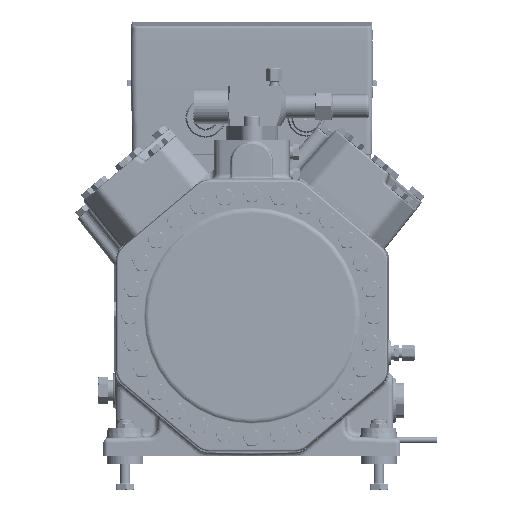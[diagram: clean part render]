
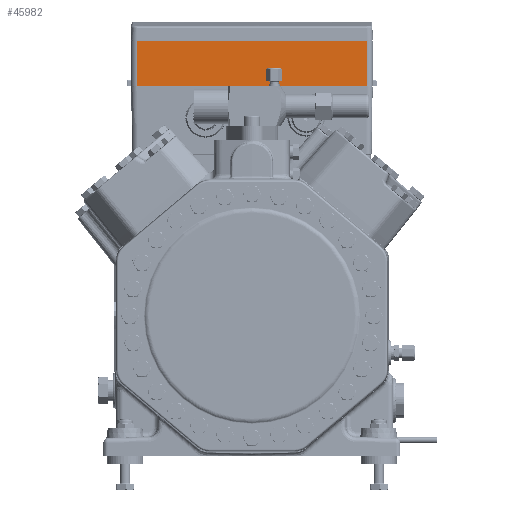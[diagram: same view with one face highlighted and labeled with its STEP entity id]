
A CAD part, front view. The second image highlights one B-rep face of the part: STEP entity #45982.
In plain terms, the highlighted planar face has unit normal (0, -1, 0).
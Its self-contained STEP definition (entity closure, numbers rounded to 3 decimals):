
#12844=PLANE('',#164041);
#18606=LINE('',#291301,#25681);
#18607=LINE('',#291304,#25682);
#18608=LINE('',#291306,#25683);
#18609=LINE('',#291308,#25684);
#25681=VECTOR('',#192330,1.);
#25682=VECTOR('',#192331,1.);
#25683=VECTOR('',#192332,1.);
#25684=VECTOR('',#192333,1.);
#45982=ADVANCED_FACE('',(#54791),#12844,.T.);
#54791=FACE_OUTER_BOUND('',#65260,.T.);
#65260=EDGE_LOOP('',(#101460,#101461,#101462,#101463));
#101460=ORIENTED_EDGE('',*,*,#143073,.F.);
#101461=ORIENTED_EDGE('',*,*,#143074,.T.);
#101462=ORIENTED_EDGE('',*,*,#143075,.T.);
#101463=ORIENTED_EDGE('',*,*,#143076,.T.);
#122666=VERTEX_POINT('',#291302);
#122667=VERTEX_POINT('',#291303);
#122668=VERTEX_POINT('',#291305);
#122669=VERTEX_POINT('',#291307);
#143073=EDGE_CURVE('',#122666,#122667,#18606,.T.);
#143074=EDGE_CURVE('',#122666,#122668,#18607,.T.);
#143075=EDGE_CURVE('',#122668,#122669,#18608,.T.);
#143076=EDGE_CURVE('',#122669,#122667,#18609,.T.);
#164041=AXIS2_PLACEMENT_3D('',#291309,#192334,#192335);
#192330=DIRECTION('',(1.,0.,0.));
#192331=DIRECTION('',(0.,0.,-1.));
#192332=DIRECTION('',(1.,0.,0.));
#192333=DIRECTION('',(0.,0.,1.));
#192334=DIRECTION('',(0.,-1.,0.));
#192335=DIRECTION('',(0.,0.,1.));
#291301=CARTESIAN_POINT('',(0.,-94.5,115.5));
#291302=CARTESIAN_POINT('',(-116.,-94.5,115.5));
#291303=CARTESIAN_POINT('',(116.,-94.5,115.5));
#291304=CARTESIAN_POINT('',(-116.,-94.5,118.));
#291305=CARTESIAN_POINT('',(-116.,-94.5,70.));
#291306=CARTESIAN_POINT('',(0.,-94.5,70.));
#291307=CARTESIAN_POINT('',(116.,-94.5,70.));
#291308=CARTESIAN_POINT('',(116.,-94.5,118.));
#291309=CARTESIAN_POINT('',(0.,-94.5,118.));
